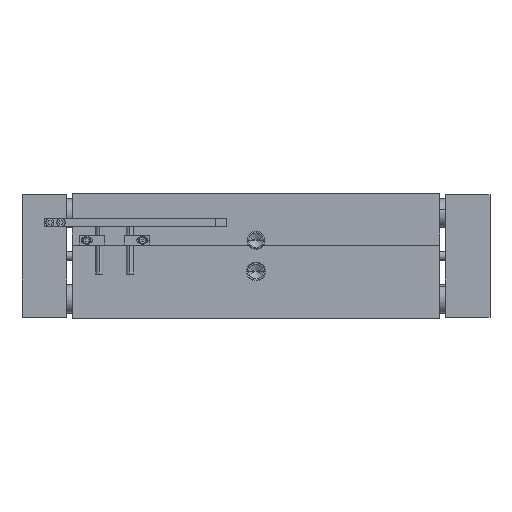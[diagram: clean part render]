
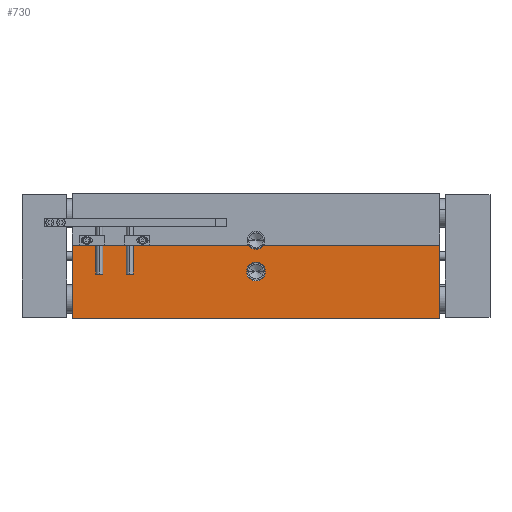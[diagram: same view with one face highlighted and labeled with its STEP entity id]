
A CAD part, top view. The second image highlights one B-rep face of the part: STEP entity #730.
In plain terms, the highlighted planar face has unit normal (0, 0, 1).
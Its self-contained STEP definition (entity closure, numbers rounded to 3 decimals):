
#117 = ORIENTED_EDGE ( 'NONE', *, *, #4334, .F. ) ;
#119 = DIRECTION ( 'NONE',  ( 1., 0., 0. ) ) ;
#173 = CIRCLE ( 'NONE', #265, 5.398 ) ;
#265 = AXIS2_PLACEMENT_3D ( 'NONE', #6703, #2685, #7380 ) ;
#341 = DIRECTION ( 'NONE',  ( 1., 0., 0. ) ) ;
#580 = LINE ( 'NONE', #796, #5502 ) ;
#730 = ADVANCED_FACE ( 'NONE', ( #971, #2515 ), #4111, .F. ) ;
#775 = CARTESIAN_POINT ( 'NONE',  ( -104.775, 35.56, 35.56 ) ) ;
#796 = CARTESIAN_POINT ( 'NONE',  ( -104.775, -35.56, 35.56 ) ) ;
#811 = DIRECTION ( 'NONE',  ( -1., 0., 0. ) ) ;
#971 = FACE_BOUND ( 'NONE', #5381, .T. ) ;
#1028 = CARTESIAN_POINT ( 'NONE',  ( 4.335, 6.121, 35.56 ) ) ;
#1103 = AXIS2_PLACEMENT_3D ( 'NONE', #5649, #1623, #6304 ) ;
#1366 = EDGE_CURVE ( 'NONE', #2676, #3913, #3628, .T. ) ;
#1623 = DIRECTION ( 'NONE',  ( 0., 0., -1. ) ) ;
#1688 = CARTESIAN_POINT ( 'NONE',  ( -4.335, 6.121, 35.56 ) ) ;
#1719 = EDGE_LOOP ( 'NONE', ( #117, #2291, #2621, #8617, #6584, #3381 ) ) ;
#2012 = VERTEX_POINT ( 'NONE', #6550 ) ;
#2291 = ORIENTED_EDGE ( 'NONE', *, *, #3974, .F. ) ;
#2492 = EDGE_CURVE ( 'NONE', #2012, #2779, #580, .T. ) ;
#2515 = FACE_OUTER_BOUND ( 'NONE', #1719, .T. ) ;
#2557 = CIRCLE ( 'NONE', #1103, 5.398 ) ;
#2621 = ORIENTED_EDGE ( 'NONE', *, *, #1366, .F. ) ;
#2674 = VECTOR ( 'NONE', #8266, 1000. ) ;
#2676 = VERTEX_POINT ( 'NONE', #4638 ) ;
#2685 = DIRECTION ( 'NONE',  ( 0., 0., -1. ) ) ;
#2779 = VERTEX_POINT ( 'NONE', #6793 ) ;
#2912 = DIRECTION ( 'NONE',  ( 1., 0., 0. ) ) ;
#3096 = LINE ( 'NONE', #3554, #2674 ) ;
#3109 = CARTESIAN_POINT ( 'NONE',  ( 0., 8.89, 35.56 ) ) ;
#3242 = LINE ( 'NONE', #5024, #5054 ) ;
#3299 = ORIENTED_EDGE ( 'NONE', *, *, #7923, .T. ) ;
#3341 = CARTESIAN_POINT ( 'NONE',  ( 5.398, -8.89, 35.56 ) ) ;
#3381 = ORIENTED_EDGE ( 'NONE', *, *, #8387, .T. ) ;
#3428 = AXIS2_PLACEMENT_3D ( 'NONE', #3109, #7810, #3785 ) ;
#3554 = CARTESIAN_POINT ( 'NONE',  ( -104.775, 35.56, 35.56 ) ) ;
#3628 = LINE ( 'NONE', #6917, #6977 ) ;
#3653 = DIRECTION ( 'NONE',  ( 0., 1., 0. ) ) ;
#3785 = DIRECTION ( 'NONE',  ( 1., 0., 0. ) ) ;
#3913 = VERTEX_POINT ( 'NONE', #1688 ) ;
#3940 = VERTEX_POINT ( 'NONE', #1028 ) ;
#3974 = EDGE_CURVE ( 'NONE', #3913, #3940, #7343, .T. ) ;
#4111 = PLANE ( 'NONE',  #5757 ) ;
#4334 = EDGE_CURVE ( 'NONE', #3940, #5198, #3242, .T. ) ;
#4638 = CARTESIAN_POINT ( 'NONE',  ( -104.775, 6.121, 35.56 ) ) ;
#4817 = DIRECTION ( 'NONE',  ( 0., 0., -1. ) ) ;
#5024 = CARTESIAN_POINT ( 'NONE',  ( -104.775, 6.121, 35.56 ) ) ;
#5054 = VECTOR ( 'NONE', #341, 1000. ) ;
#5198 = VERTEX_POINT ( 'NONE', #7574 ) ;
#5290 = ORIENTED_EDGE ( 'NONE', *, *, #6984, .T. ) ;
#5381 = EDGE_LOOP ( 'NONE', ( #3299, #5290 ) ) ;
#5502 = VECTOR ( 'NONE', #119, 1000. ) ;
#5649 = CARTESIAN_POINT ( 'NONE',  ( 0., -8.89, 35.56 ) ) ;
#5732 = VERTEX_POINT ( 'NONE', #3341 ) ;
#5757 = AXIS2_PLACEMENT_3D ( 'NONE', #775, #4817, #811 ) ;
#6010 = LINE ( 'NONE', #6312, #7588 ) ;
#6234 = EDGE_CURVE ( 'NONE', #2676, #2012, #3096, .T. ) ;
#6304 = DIRECTION ( 'NONE',  ( -1., 0., 0. ) ) ;
#6312 = CARTESIAN_POINT ( 'NONE',  ( 104.775, -35.56, 35.56 ) ) ;
#6550 = CARTESIAN_POINT ( 'NONE',  ( -104.775, -35.56, 35.56 ) ) ;
#6584 = ORIENTED_EDGE ( 'NONE', *, *, #2492, .T. ) ;
#6703 = CARTESIAN_POINT ( 'NONE',  ( 0., -8.89, 35.56 ) ) ;
#6793 = CARTESIAN_POINT ( 'NONE',  ( 104.775, -35.56, 35.56 ) ) ;
#6917 = CARTESIAN_POINT ( 'NONE',  ( -104.775, 6.121, 35.56 ) ) ;
#6977 = VECTOR ( 'NONE', #2912, 1000. ) ;
#6984 = EDGE_CURVE ( 'NONE', #8620, #5732, #2557, .T. ) ;
#7343 = CIRCLE ( 'NONE', #3428, 5.144 ) ;
#7380 = DIRECTION ( 'NONE',  ( -1., 0., 0. ) ) ;
#7574 = CARTESIAN_POINT ( 'NONE',  ( 104.775, 6.121, 35.56 ) ) ;
#7588 = VECTOR ( 'NONE', #3653, 1000. ) ;
#7810 = DIRECTION ( 'NONE',  ( 0., 0., 1. ) ) ;
#7923 = EDGE_CURVE ( 'NONE', #5732, #8620, #173, .T. ) ;
#8266 = DIRECTION ( 'NONE',  ( 0., -1., 0. ) ) ;
#8387 = EDGE_CURVE ( 'NONE', #2779, #5198, #6010, .T. ) ;
#8576 = CARTESIAN_POINT ( 'NONE',  ( -5.398, -8.89, 35.56 ) ) ;
#8617 = ORIENTED_EDGE ( 'NONE', *, *, #6234, .T. ) ;
#8620 = VERTEX_POINT ( 'NONE', #8576 ) ;
